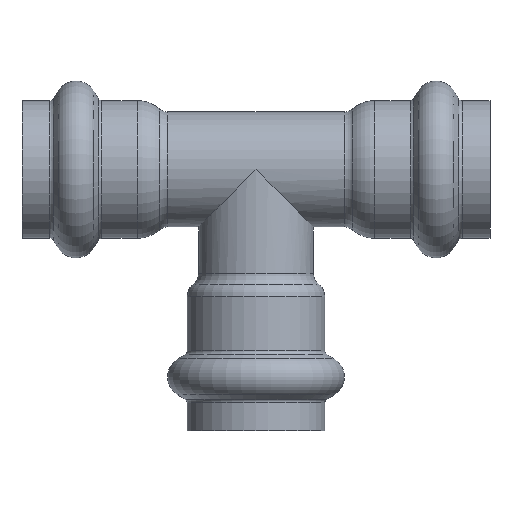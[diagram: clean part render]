
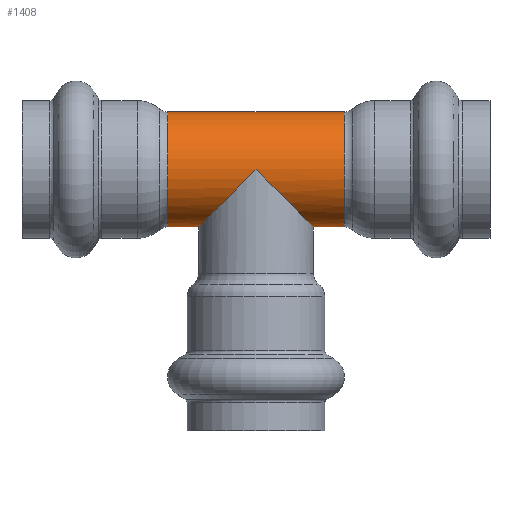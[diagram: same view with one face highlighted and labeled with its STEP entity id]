
A CAD part, top view. The second image highlights one B-rep face of the part: STEP entity #1408.
In plain terms, the highlighted cylindrical face has radius 10.668 mm (diameter 21.336 mm), a full revolution.
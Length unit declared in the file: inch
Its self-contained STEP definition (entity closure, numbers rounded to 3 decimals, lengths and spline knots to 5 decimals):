
#134=FACE_OUTER_BOUND('',#197,.T.);
#197=EDGE_LOOP('',(#1132,#1133,#1134,#1135,#1136,#1137,#1138,#1139,#1140,
#1141,#1142,#1143,#1144,#1145));
#334=CIRCLE('',#1613,0.42);
#335=CIRCLE('',#1614,0.42);
#336=CIRCLE('',#1615,0.42);
#337=CIRCLE('',#1617,0.42);
#338=CIRCLE('',#1618,0.42);
#339=CIRCLE('',#1619,0.42);
#420=LINE('',#2574,#450);
#421=LINE('',#2575,#451);
#450=VECTOR('',#2076,0.42);
#451=VECTOR('',#2077,0.42);
#464=ELLIPSE('',#1487,0.59397,0.42);
#465=ELLIPSE('',#1488,0.59397,0.42);
#466=ELLIPSE('',#1489,0.59397,0.42);
#467=ELLIPSE('',#1490,0.59397,0.42);
#492=VERTEX_POINT('',#2340);
#493=VERTEX_POINT('',#2341);
#494=VERTEX_POINT('',#2343);
#495=VERTEX_POINT('',#2345);
#572=VERTEX_POINT('',#2561);
#573=VERTEX_POINT('',#2563);
#574=VERTEX_POINT('',#2565);
#575=VERTEX_POINT('',#2569);
#576=VERTEX_POINT('',#2570);
#577=VERTEX_POINT('',#2572);
#661=EDGE_CURVE('',#492,#493,#464,.T.);
#662=EDGE_CURVE('',#494,#492,#465,.T.);
#663=EDGE_CURVE('',#495,#494,#466,.T.);
#665=EDGE_CURVE('',#493,#495,#467,.T.);
#772=EDGE_CURVE('',#573,#572,#334,.T.);
#773=EDGE_CURVE('',#574,#573,#335,.T.);
#774=EDGE_CURVE('',#572,#574,#336,.T.);
#775=EDGE_CURVE('',#575,#576,#337,.T.);
#776=EDGE_CURVE('',#577,#575,#338,.T.);
#777=EDGE_CURVE('',#577,#493,#420,.T.);
#778=EDGE_CURVE('',#494,#574,#421,.T.);
#779=EDGE_CURVE('',#576,#577,#339,.T.);
#1132=ORIENTED_EDGE('',*,*,#775,.F.);
#1133=ORIENTED_EDGE('',*,*,#776,.F.);
#1134=ORIENTED_EDGE('',*,*,#777,.T.);
#1135=ORIENTED_EDGE('',*,*,#665,.T.);
#1136=ORIENTED_EDGE('',*,*,#663,.T.);
#1137=ORIENTED_EDGE('',*,*,#778,.T.);
#1138=ORIENTED_EDGE('',*,*,#773,.T.);
#1139=ORIENTED_EDGE('',*,*,#772,.T.);
#1140=ORIENTED_EDGE('',*,*,#774,.T.);
#1141=ORIENTED_EDGE('',*,*,#778,.F.);
#1142=ORIENTED_EDGE('',*,*,#662,.T.);
#1143=ORIENTED_EDGE('',*,*,#661,.T.);
#1144=ORIENTED_EDGE('',*,*,#777,.F.);
#1145=ORIENTED_EDGE('',*,*,#779,.F.);
#1299=CYLINDRICAL_SURFACE('',#1616,0.42);
#1408=ADVANCED_FACE('',(#134),#1299,.T.);
#1487=AXIS2_PLACEMENT_3D('',#2342,#1796,#1797);
#1488=AXIS2_PLACEMENT_3D('',#2344,#1798,#1799);
#1489=AXIS2_PLACEMENT_3D('',#2346,#1800,#1801);
#1490=AXIS2_PLACEMENT_3D('',#2348,#1803,#1804);
#1613=AXIS2_PLACEMENT_3D('',#2564,#2064,#2065);
#1614=AXIS2_PLACEMENT_3D('',#2566,#2066,#2067);
#1615=AXIS2_PLACEMENT_3D('',#2567,#2068,#2069);
#1616=AXIS2_PLACEMENT_3D('',#2568,#2070,#2071);
#1617=AXIS2_PLACEMENT_3D('',#2571,#2072,#2073);
#1618=AXIS2_PLACEMENT_3D('',#2573,#2074,#2075);
#1619=AXIS2_PLACEMENT_3D('',#2576,#2078,#2079);
#1796=DIRECTION('center_axis',(0.707,0.707,0.));
#1797=DIRECTION('ref_axis',(0.707,-0.707,0.));
#1798=DIRECTION('center_axis',(-0.707,0.707,0.));
#1799=DIRECTION('ref_axis',(0.707,0.707,0.));
#1800=DIRECTION('center_axis',(-0.707,0.707,0.));
#1801=DIRECTION('ref_axis',(0.707,0.707,0.));
#1803=DIRECTION('center_axis',(0.707,0.707,0.));
#1804=DIRECTION('ref_axis',(0.707,-0.707,0.));
#2064=DIRECTION('center_axis',(1.,0.,0.));
#2065=DIRECTION('ref_axis',(0.,1.,0.));
#2066=DIRECTION('center_axis',(1.,0.,0.));
#2067=DIRECTION('ref_axis',(0.,1.,0.));
#2068=DIRECTION('center_axis',(1.,0.,0.));
#2069=DIRECTION('ref_axis',(0.,1.,0.));
#2070=DIRECTION('center_axis',(1.,0.,0.));
#2071=DIRECTION('ref_axis',(0.,1.,0.));
#2072=DIRECTION('center_axis',(1.,0.,0.));
#2073=DIRECTION('ref_axis',(0.,1.,0.));
#2074=DIRECTION('center_axis',(1.,0.,0.));
#2075=DIRECTION('ref_axis',(0.,1.,0.));
#2076=DIRECTION('',(-1.,0.,0.));
#2077=DIRECTION('',(-1.,0.,0.));
#2078=DIRECTION('center_axis',(1.,0.,0.));
#2079=DIRECTION('ref_axis',(0.,1.,0.));
#2340=CARTESIAN_POINT('',(0.,0.,0.42));
#2341=CARTESIAN_POINT('',(0.42,-0.42,0.));
#2342=CARTESIAN_POINT('Origin',(0.,0.,0.));
#2343=CARTESIAN_POINT('',(-0.42,-0.42,0.));
#2344=CARTESIAN_POINT('Origin',(0.,0.,0.));
#2345=CARTESIAN_POINT('',(0.,0.,-0.42));
#2346=CARTESIAN_POINT('Origin',(0.,0.,0.));
#2348=CARTESIAN_POINT('Origin',(0.,0.,0.));
#2561=CARTESIAN_POINT('',(-0.64528,0.,0.42));
#2563=CARTESIAN_POINT('',(-0.64528,0.42,0.));
#2564=CARTESIAN_POINT('Origin',(-0.64528,0.,0.));
#2565=CARTESIAN_POINT('',(-0.64528,-0.42,0.));
#2566=CARTESIAN_POINT('Origin',(-0.64528,0.,0.));
#2567=CARTESIAN_POINT('Origin',(-0.64528,0.,0.));
#2568=CARTESIAN_POINT('Origin',(0.32264,0.,0.));
#2569=CARTESIAN_POINT('',(0.64528,0.42,0.));
#2570=CARTESIAN_POINT('',(0.64528,0.,0.42));
#2571=CARTESIAN_POINT('Origin',(0.64528,0.,0.));
#2572=CARTESIAN_POINT('',(0.64528,-0.42,0.));
#2573=CARTESIAN_POINT('Origin',(0.64528,0.,0.));
#2574=CARTESIAN_POINT('',(0.32264,-0.42,0.));
#2575=CARTESIAN_POINT('',(0.32264,-0.42,0.));
#2576=CARTESIAN_POINT('Origin',(0.64528,0.,0.));
